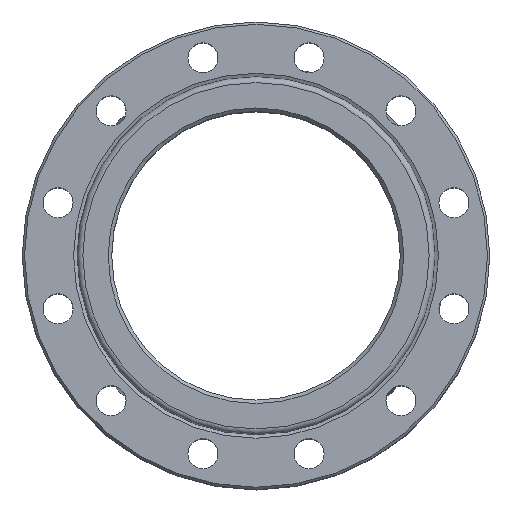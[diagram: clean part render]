
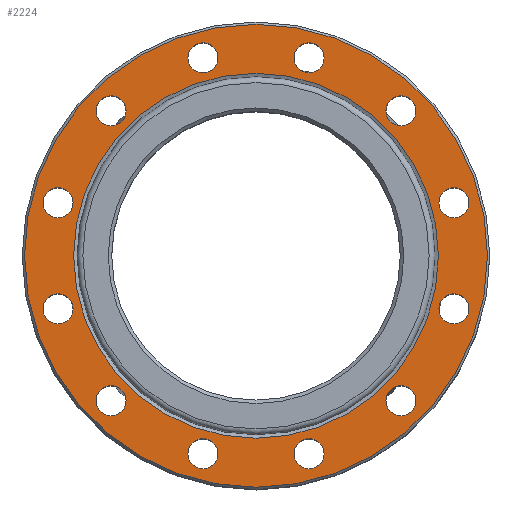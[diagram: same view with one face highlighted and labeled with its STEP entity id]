
A CAD part, top view. The second image highlights one B-rep face of the part: STEP entity #2224.
In plain terms, the highlighted planar face has unit normal (0, 0, 1).
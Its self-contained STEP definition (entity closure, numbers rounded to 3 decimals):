
#180=FACE_BOUND('',#553,.T.);
#181=FACE_BOUND('',#554,.T.);
#182=FACE_BOUND('',#555,.T.);
#183=FACE_BOUND('',#556,.T.);
#184=FACE_BOUND('',#557,.T.);
#185=FACE_BOUND('',#558,.T.);
#186=FACE_BOUND('',#559,.T.);
#187=FACE_BOUND('',#560,.T.);
#188=FACE_BOUND('',#561,.T.);
#189=FACE_BOUND('',#562,.T.);
#190=FACE_BOUND('',#563,.T.);
#191=FACE_BOUND('',#564,.T.);
#192=FACE_BOUND('',#565,.T.);
#201=PLANE('',#2413);
#398=FACE_OUTER_BOUND('',#552,.T.);
#552=EDGE_LOOP('',(#1686));
#553=EDGE_LOOP('',(#1687));
#554=EDGE_LOOP('',(#1688));
#555=EDGE_LOOP('',(#1689));
#556=EDGE_LOOP('',(#1690));
#557=EDGE_LOOP('',(#1691));
#558=EDGE_LOOP('',(#1692));
#559=EDGE_LOOP('',(#1693));
#560=EDGE_LOOP('',(#1694));
#561=EDGE_LOOP('',(#1695));
#562=EDGE_LOOP('',(#1696));
#563=EDGE_LOOP('',(#1697));
#564=EDGE_LOOP('',(#1698));
#565=EDGE_LOOP('',(#1699));
#906=CIRCLE('',#2412,200.5);
#907=CIRCLE('',#2414,13.);
#908=CIRCLE('',#2415,13.);
#909=CIRCLE('',#2416,13.);
#910=CIRCLE('',#2417,13.);
#911=CIRCLE('',#2418,13.);
#912=CIRCLE('',#2419,13.);
#913=CIRCLE('',#2420,13.);
#914=CIRCLE('',#2421,13.);
#915=CIRCLE('',#2422,13.);
#916=CIRCLE('',#2423,13.);
#917=CIRCLE('',#2424,13.);
#918=CIRCLE('',#2425,13.);
#919=CIRCLE('',#2426,158.);
#1088=VERTEX_POINT('',#3406);
#1089=VERTEX_POINT('',#3410);
#1090=VERTEX_POINT('',#3412);
#1091=VERTEX_POINT('',#3414);
#1092=VERTEX_POINT('',#3416);
#1093=VERTEX_POINT('',#3418);
#1094=VERTEX_POINT('',#3420);
#1095=VERTEX_POINT('',#3422);
#1096=VERTEX_POINT('',#3424);
#1097=VERTEX_POINT('',#3426);
#1098=VERTEX_POINT('',#3428);
#1099=VERTEX_POINT('',#3430);
#1100=VERTEX_POINT('',#3432);
#1101=VERTEX_POINT('',#3434);
#1315=EDGE_CURVE('',#1088,#1088,#906,.T.);
#1317=EDGE_CURVE('',#1089,#1089,#907,.T.);
#1318=EDGE_CURVE('',#1090,#1090,#908,.T.);
#1319=EDGE_CURVE('',#1091,#1091,#909,.T.);
#1320=EDGE_CURVE('',#1092,#1092,#910,.T.);
#1321=EDGE_CURVE('',#1093,#1093,#911,.T.);
#1322=EDGE_CURVE('',#1094,#1094,#912,.T.);
#1323=EDGE_CURVE('',#1095,#1095,#913,.T.);
#1324=EDGE_CURVE('',#1096,#1096,#914,.T.);
#1325=EDGE_CURVE('',#1097,#1097,#915,.T.);
#1326=EDGE_CURVE('',#1098,#1098,#916,.T.);
#1327=EDGE_CURVE('',#1099,#1099,#917,.T.);
#1328=EDGE_CURVE('',#1100,#1100,#918,.T.);
#1329=EDGE_CURVE('',#1101,#1101,#919,.T.);
#1686=ORIENTED_EDGE('',*,*,#1315,.F.);
#1687=ORIENTED_EDGE('',*,*,#1317,.T.);
#1688=ORIENTED_EDGE('',*,*,#1318,.T.);
#1689=ORIENTED_EDGE('',*,*,#1319,.T.);
#1690=ORIENTED_EDGE('',*,*,#1320,.T.);
#1691=ORIENTED_EDGE('',*,*,#1321,.T.);
#1692=ORIENTED_EDGE('',*,*,#1322,.T.);
#1693=ORIENTED_EDGE('',*,*,#1323,.T.);
#1694=ORIENTED_EDGE('',*,*,#1324,.T.);
#1695=ORIENTED_EDGE('',*,*,#1325,.T.);
#1696=ORIENTED_EDGE('',*,*,#1326,.T.);
#1697=ORIENTED_EDGE('',*,*,#1327,.T.);
#1698=ORIENTED_EDGE('',*,*,#1328,.T.);
#1699=ORIENTED_EDGE('',*,*,#1329,.T.);
#2224=ADVANCED_FACE('',(#398,#180,#181,#182,#183,#184,#185,#186,#187,#188,
#189,#190,#191,#192),#201,.F.);
#2412=AXIS2_PLACEMENT_3D('',#3407,#2778,#2779);
#2413=AXIS2_PLACEMENT_3D('',#3409,#2781,#2782);
#2414=AXIS2_PLACEMENT_3D('',#3411,#2783,#2784);
#2415=AXIS2_PLACEMENT_3D('',#3413,#2785,#2786);
#2416=AXIS2_PLACEMENT_3D('',#3415,#2787,#2788);
#2417=AXIS2_PLACEMENT_3D('',#3417,#2789,#2790);
#2418=AXIS2_PLACEMENT_3D('',#3419,#2791,#2792);
#2419=AXIS2_PLACEMENT_3D('',#3421,#2793,#2794);
#2420=AXIS2_PLACEMENT_3D('',#3423,#2795,#2796);
#2421=AXIS2_PLACEMENT_3D('',#3425,#2797,#2798);
#2422=AXIS2_PLACEMENT_3D('',#3427,#2799,#2800);
#2423=AXIS2_PLACEMENT_3D('',#3429,#2801,#2802);
#2424=AXIS2_PLACEMENT_3D('',#3431,#2803,#2804);
#2425=AXIS2_PLACEMENT_3D('',#3433,#2805,#2806);
#2426=AXIS2_PLACEMENT_3D('',#3435,#2807,#2808);
#2778=DIRECTION('center_axis',(0.,0.,-1.));
#2779=DIRECTION('ref_axis',(1.,0.,0.));
#2781=DIRECTION('center_axis',(0.,0.,-1.));
#2782=DIRECTION('ref_axis',(-1.,0.,0.));
#2783=DIRECTION('center_axis',(0.,0.,-1.));
#2784=DIRECTION('ref_axis',(1.,0.,0.));
#2785=DIRECTION('center_axis',(0.,0.,-1.));
#2786=DIRECTION('ref_axis',(1.,0.,0.));
#2787=DIRECTION('center_axis',(0.,0.,-1.));
#2788=DIRECTION('ref_axis',(1.,0.,0.));
#2789=DIRECTION('center_axis',(0.,0.,-1.));
#2790=DIRECTION('ref_axis',(1.,0.,0.));
#2791=DIRECTION('center_axis',(0.,0.,-1.));
#2792=DIRECTION('ref_axis',(1.,0.,0.));
#2793=DIRECTION('center_axis',(0.,0.,-1.));
#2794=DIRECTION('ref_axis',(1.,0.,0.));
#2795=DIRECTION('center_axis',(0.,0.,-1.));
#2796=DIRECTION('ref_axis',(1.,0.,0.));
#2797=DIRECTION('center_axis',(0.,0.,-1.));
#2798=DIRECTION('ref_axis',(1.,0.,0.));
#2799=DIRECTION('center_axis',(0.,0.,-1.));
#2800=DIRECTION('ref_axis',(1.,0.,0.));
#2801=DIRECTION('center_axis',(0.,0.,-1.));
#2802=DIRECTION('ref_axis',(1.,0.,0.));
#2803=DIRECTION('center_axis',(0.,0.,-1.));
#2804=DIRECTION('ref_axis',(1.,0.,0.));
#2805=DIRECTION('center_axis',(0.,0.,-1.));
#2806=DIRECTION('ref_axis',(1.,0.,0.));
#2807=DIRECTION('center_axis',(0.,0.,-1.));
#2808=DIRECTION('ref_axis',(0.,1.,0.));
#3406=CARTESIAN_POINT('',(-200.5,0.,111.));
#3407=CARTESIAN_POINT('Origin',(0.,0.,111.));
#3409=CARTESIAN_POINT('Origin',(0.,0.,111.));
#3410=CARTESIAN_POINT('',(-184.452,-45.94,111.));
#3411=CARTESIAN_POINT('Origin',(-171.452,-45.94,111.));
#3412=CARTESIAN_POINT('',(-138.511,-125.511,111.));
#3413=CARTESIAN_POINT('Origin',(-125.511,-125.511,111.));
#3414=CARTESIAN_POINT('',(-58.94,-171.452,111.));
#3415=CARTESIAN_POINT('Origin',(-45.94,-171.452,111.));
#3416=CARTESIAN_POINT('',(32.94,-171.452,111.));
#3417=CARTESIAN_POINT('Origin',(45.94,-171.452,111.));
#3418=CARTESIAN_POINT('',(112.511,-125.511,111.));
#3419=CARTESIAN_POINT('Origin',(125.511,-125.511,111.));
#3420=CARTESIAN_POINT('',(158.452,-45.94,111.));
#3421=CARTESIAN_POINT('Origin',(171.452,-45.94,111.));
#3422=CARTESIAN_POINT('',(158.452,45.94,111.));
#3423=CARTESIAN_POINT('Origin',(171.452,45.94,111.));
#3424=CARTESIAN_POINT('',(112.511,125.511,111.));
#3425=CARTESIAN_POINT('Origin',(125.511,125.511,111.));
#3426=CARTESIAN_POINT('',(32.94,171.452,111.));
#3427=CARTESIAN_POINT('Origin',(45.94,171.452,111.));
#3428=CARTESIAN_POINT('',(-58.94,171.452,111.));
#3429=CARTESIAN_POINT('Origin',(-45.94,171.452,111.));
#3430=CARTESIAN_POINT('',(-138.511,125.511,111.));
#3431=CARTESIAN_POINT('Origin',(-125.511,125.511,111.));
#3432=CARTESIAN_POINT('',(-184.452,45.94,111.));
#3433=CARTESIAN_POINT('Origin',(-171.452,45.94,111.));
#3434=CARTESIAN_POINT('',(0.,-158.,111.));
#3435=CARTESIAN_POINT('Origin',(0.,0.,111.));
